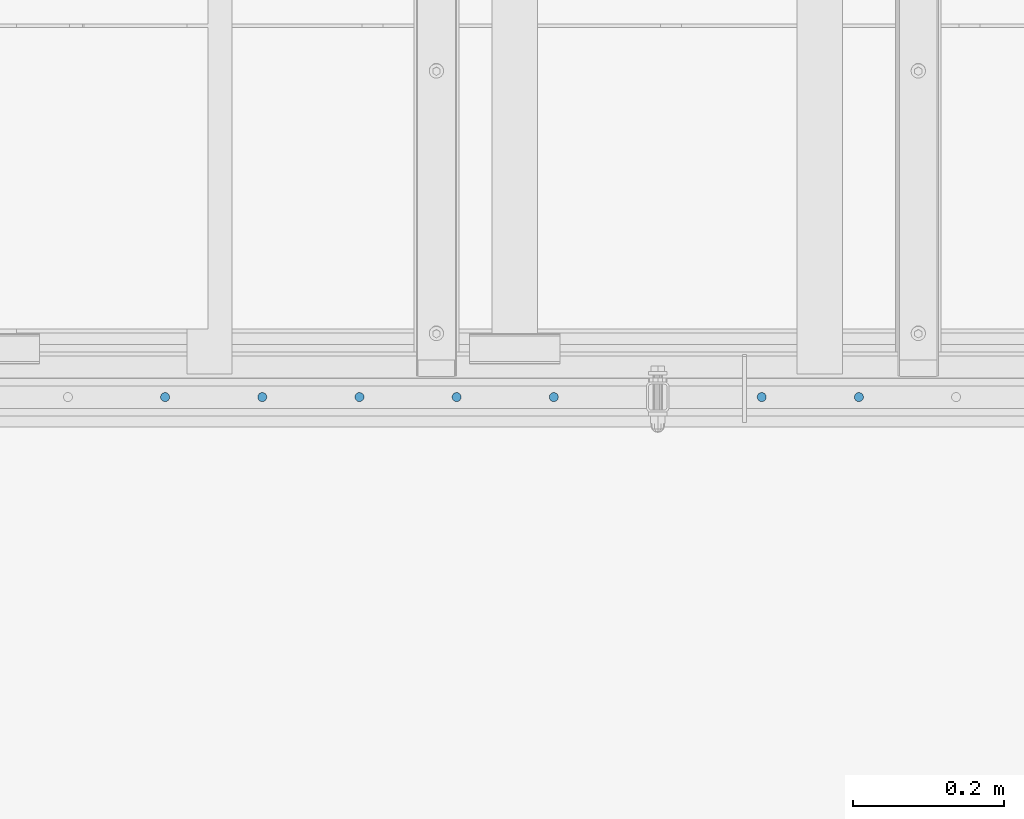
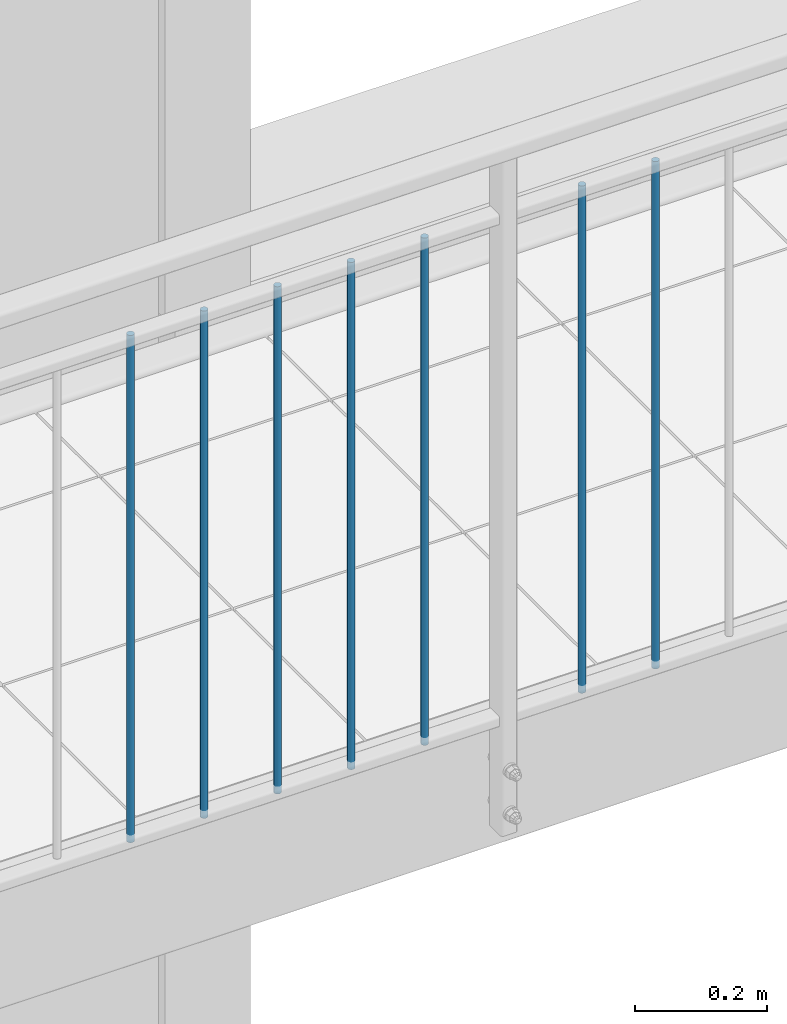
# One storey, part 20 of 162: 7 columns.
"""IFC2X3 building model written with IfcOpenShell, lengths in millimetres."""

from ifc_helpers import new_model, entity, si_unit, converted_unit, frame, origin, origin_with_axes, origin_2d, place, context, project, spatial, circle, extrude, material, element, save


model = new_model("IFC2X3")

# Units and contexts
model_context = context("Model", 3, precision=1e-09, world=origin_with_axes())
ifc_project = project(units=[si_unit("LENGTHUNIT", "METRE", prefix="MILLI"), si_unit("AREAUNIT", "SQUARE_METRE"), si_unit("VOLUMEUNIT", "CUBIC_METRE"), converted_unit("PLANEANGLEUNIT", "DEGREE", entity("IfcPlaneAngleMeasure", 0.01745329), si_unit("PLANEANGLEUNIT", "RADIAN"), dimensions=[0, 0, 0, 0, 0, 0, 0])], contexts=[model_context])

# Site, building, storey
site_placement = place(None, origin_with_axes())
site = spatial("IfcSite", under=ifc_project, at=site_placement, Name="Hermannstra?e 1a, 60318 Frankfurt", CompositionType="ELEMENT")
building_placement = place(site_placement, origin_with_axes())
building = spatial("IfcBuilding", under=site, at=building_placement, Name="Struktur 1", CompositionType="ELEMENT")
storey_placement = place(building_placement, origin_with_axes())
storey = spatial("IfcBuildingStorey", under=building, at=storey_placement, Name="Default Storey", CompositionType="ELEMENT", Elevation=0.0)

# Columns
ifc_material = material(Name="S235JR")
for number, where, z_axis, x_axis in (
    (1, (2870.023650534, 1515.609373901, 11504.999), (0.0, 0.0, -1.0), (1.0, 0.0, 0.0)),
    (2, (2998.880793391, 1515.609373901, 11504.999), (0.0, 0.0, -1.0), (1.0, 0.0, 0.0)),
    (3, (3127.737936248, 1515.609373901, 11504.999), (0.0, 0.0, -1.0), (1.0, 0.0, 0.0)),
    (4, (3256.595079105, 1515.609373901, 11504.999), (0.0, 0.0, -1.0), (1.0, 0.0, 0.0)),
    (5, (3385.452221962, 1515.609373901, 11504.999), (0.0, 0.0, -1.0), (1.0, 0.0, 0.0)),
    (6, (3661.166507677, 1515.609373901, 11504.999), (0.0, 0.0, -1.0), (1.0, 0.0, 0.0)),
    (7, (3790.023650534, 1515.609373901, 11504.999), (0.0, 0.0, -1.0), (1.0, 0.0, 0.0)),
):
    element("IfcColumn", number, at=place(None, frame(where, z_axis=z_axis, x_axis=x_axis)), inside=storey, material=ifc_material, Name="-", ObjectType="-", context=model_context, shape_type="SweptSolid", body=[
        extrude(circle(Radius=6.0, at=origin_2d()), origin(), (0.0, 0.0, -1.0), 940.0),
    ])

save(model, "model.ifc")
